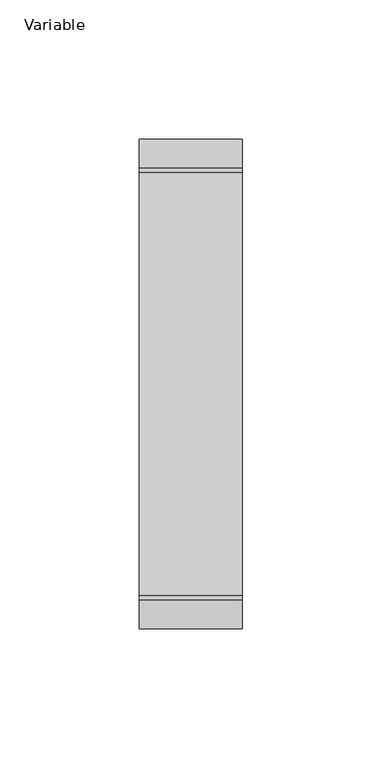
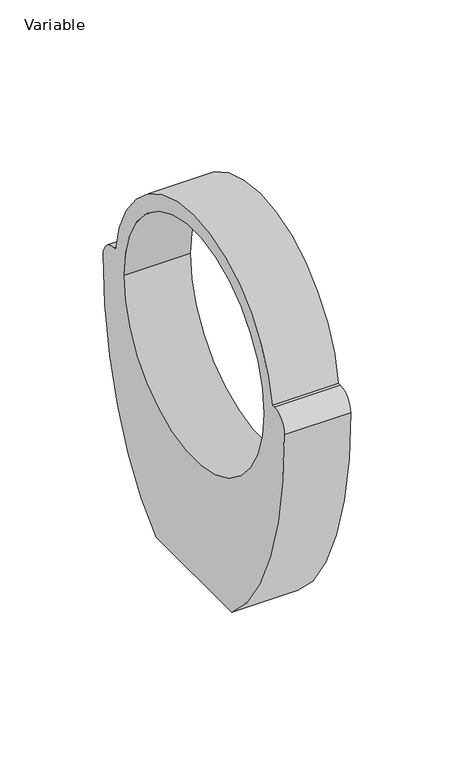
"""IFC4 building model written with IfcOpenShell, lengths in millimetres: valve geometry, AliaxisFR_Friaphon_PhonoklipBracket_FR : Variable."""

from ifc_helpers import new_model, si_unit, point, frame, origin, place, context, project, spatial, polyline, circle_curve, ellipse_curve, trimmed, source, transform, mapped, element, save
from ifc_brep_helpers import plane_surface, cylinder_surface, revolved_surface, extruded_surface, advanced_brep


def variable_b777e5b6(model_context):
    return source(origin(), model_context, "Body", "AdvancedBrep", [
        advanced_brep(
        [(18.5, 36.5564561, -136.0), (18.5, 87.75, 0.0), (18.5, 77.625, 10.125), (18.5, 75.8270029, 10.125), (18.5, -75.8270029, 10.125), (18.5, -77.625, 10.125), (18.5, -87.75, 0.0), (18.5, -36.5564561, -136.0), (18.5, -67.5, 0.0), (18.5, 67.5, 0.0), (-18.5, -36.5564561, -136.0), (-18.5, -87.75, 0.0), (-18.5, -77.625, 10.125), (-18.5, -75.8270029, 10.125), (-18.5, 75.8270029, 10.125), (-18.5, 77.625, 10.125), (-18.5, 87.75, 0.0), (-18.5, 36.5564561, -136.0), (-18.5, -67.5, 0.0), (-18.5, 67.5, 0.0)],
        [
            (0, 1, ellipse_curve(frame((18.5, 0.0, 0.0), z_axis=(1.0, 0.0, 0.0), x_axis=(0.0, 0.0, 1.0)), 149.6, 87.75)),
            (1, 2, circle_curve(frame((18.5, 77.625, 0.0), z_axis=(1.0, 0.0, 0.0), x_axis=(0.0, 1.0, 0.0)), 10.125)),
            (2, 3),
            (3, 4, circle_curve(frame((18.5, 0.0, 0.0), z_axis=(1.0, 0.0, 0.0), x_axis=(0.0, 1.0, 0.0)), 76.5)),
            (4, 5),
            (5, 6, circle_curve(frame((18.5, -77.625, 0.0), z_axis=(1.0, 0.0, 0.0), x_axis=(0.0, 1.0, 0.0)), 10.125)),
            (6, 7, ellipse_curve(frame((18.5, 0.0, 0.0), z_axis=(1.0, 0.0, 0.0), x_axis=(0.0, 0.0, 1.0)), 149.6, 87.75)),
            (7, 0),
            (8, 9, circle_curve(frame((18.5, 0.0, 0.0), z_axis=(-1.0, 0.0, 0.0), x_axis=(0.0, 1.0, 0.0)), 67.5)),
            (9, 8, circle_curve(frame((18.5, 0.0, 0.0), z_axis=(-1.0, 0.0, 0.0), x_axis=(0.0, 1.0, 0.0)), 67.5)),
            (10, 11, ellipse_curve(frame((-18.5, 0.0, 0.0), z_axis=(-1.0, 0.0, 0.0), x_axis=(0.0, 0.0, 1.0)), 149.6, 87.75)),
            (11, 12, circle_curve(frame((-18.5, -77.625, 0.0), z_axis=(-1.0, 0.0, 0.0), x_axis=(0.0, 1.0, 0.0)), 10.125)),
            (12, 13),
            (13, 14, circle_curve(frame((-18.5, 0.0, 0.0), z_axis=(-1.0, 0.0, 0.0), x_axis=(0.0, 1.0, 0.0)), 76.5)),
            (14, 15),
            (15, 16, circle_curve(frame((-18.5, 77.625, 0.0), z_axis=(-1.0, 0.0, 0.0), x_axis=(0.0, 1.0, 0.0)), 10.125)),
            (16, 17, ellipse_curve(frame((-18.5, 0.0, 0.0), z_axis=(-1.0, 0.0, 0.0), x_axis=(0.0, 0.0, 1.0)), 149.6, 87.75)),
            (17, 10),
            (18, 19, circle_curve(frame((-18.5, 0.0, 0.0), z_axis=(1.0, 0.0, 0.0), x_axis=(0.0, 1.0, 0.0)), 67.5)),
            (19, 18, circle_curve(frame((-18.5, 0.0, 0.0), z_axis=(1.0, 0.0, 0.0), x_axis=(0.0, 1.0, 0.0)), 67.5)),
            (0, 17),
            (16, 1),
            (6, 11),
            (10, 7),
            (8, 18),
            (19, 9),
            (3, 14),
            (13, 4),
            (15, 2),
            (5, 12),
        ],
        [
            plane_surface(frame((18.5, 76.5, 0.0), z_axis=(1.0, 0.0, 0.0), x_axis=(0.0, 0.0, -1.0))),
            plane_surface(frame((-18.5, 76.5, 0.0), z_axis=(-1.0, 0.0, 0.0), x_axis=(0.0, 0.0, 1.0))),
            extruded_surface(trimmed(ellipse_curve(frame((-37.0, 0.0, 0.0), z_axis=(1.0, 0.0, 0.0), x_axis=(0.0, 0.0, 1.0)), 149.6, 87.75), [point((-37.0, 0.0, -149.6))], [point((-37.0, 0.0, 149.6))], True, "CARTESIAN"), (37.0, 0.0, 0.0), 37.0),
            extruded_surface(trimmed(ellipse_curve(frame((-37.0, 0.0, 0.0), z_axis=(1.0, 0.0, 0.0), x_axis=(0.0, 0.0, 1.0)), 149.6, 87.75), [point((-37.0, 0.0, 149.6))], [point((-37.0, 0.0, -149.6))], True, "CARTESIAN"), (37.0, 0.0, 0.0), 37.0),
            plane_surface(frame((18.5, 87.75, -136.0), z_axis=(0.0, 0.0, -1.0), x_axis=(-1.0, 0.0, 0.0))),
            revolved_surface(polyline([(-18.5, 67.5, 0.0), (18.5, 67.5, 0.0)]), (-18.5, 0.0, 0.0), (-1.0, 0.0, 0.0)),
            cylinder_surface(frame((0.0, 0.0, 0.0), z_axis=(1.0, 0.0, 0.0), x_axis=(0.0, 1.0, 0.0)), 76.5),
            cylinder_surface(frame((-18.5, 77.625, 0.0), z_axis=(1.0, 0.0, 0.0), x_axis=(0.0, 1.0, 0.0)), 10.125),
            cylinder_surface(frame((0.0, -77.625, 0.0), z_axis=(1.0, 0.0, 0.0), x_axis=(0.0, 1.0, 0.0)), 10.125),
            plane_surface(frame((18.5, 77.625, 10.125), z_axis=(0.0, 0.0, 1.0), x_axis=(-1.0, 0.0, 0.0))),
            plane_surface(frame((18.5, -67.5, 10.125), z_axis=(0.0, 0.0, 1.0), x_axis=(-1.0, 0.0, 0.0))),
        ],
        [
            (0, [[1, 2, 3, 4, 5, 6, 7, 8], [9, 10]]),
            (1, [[11, 12, 13, 14, 15, 16, 17, 18], [19, 20]]),
            (2, [[-1, 21, -17, 22]]),
            (3, [[-7, 23, -11, 24]]),
            (4, [[-8, -24, -18, -21]]),
            (5, [[-9, 25, -20, 26]]),
            (5, [[-10, -26, -19, -25]]),
            (6, [[-4, 27, -14, 28]]),
            (7, [[-2, -22, -16, 29]]),
            (8, [[-6, 30, -12, -23]]),
            (9, [[-29, -15, -27, -3]]),
            (10, [[-30, -5, -28, -13]]),
        ],
    ),
    ])


if __name__ == "__main__":
    model = new_model("IFC4")
    model_context = context("Model", 3, world=origin())
    ifc_project = project(units=[si_unit("LENGTHUNIT", "METRE", prefix="MILLI")], contexts=[model_context])
    site = spatial("IfcSite", under=ifc_project)
    building = spatial("IfcBuilding", under=site)
    placement = place(None, origin())
    variable_shape = variable_b777e5b6(model_context)
    element("IfcValve", 1, ObjectType="AliaxisFR_Friaphon_PhonoklipBracket_FR : Variable", at=placement, inside=building, context=model_context, shape_type="MappedRepresentation", body=[
        mapped(variable_shape, transform((0.0, 0.0, 0.0), x_axis=(1.0, 0.0, 0.0), y_axis=(0.0, 1.0, 0.0), z_axis=(0.0, 0.0, 1.0))),
    ])
    save(model, "model.ifc")
